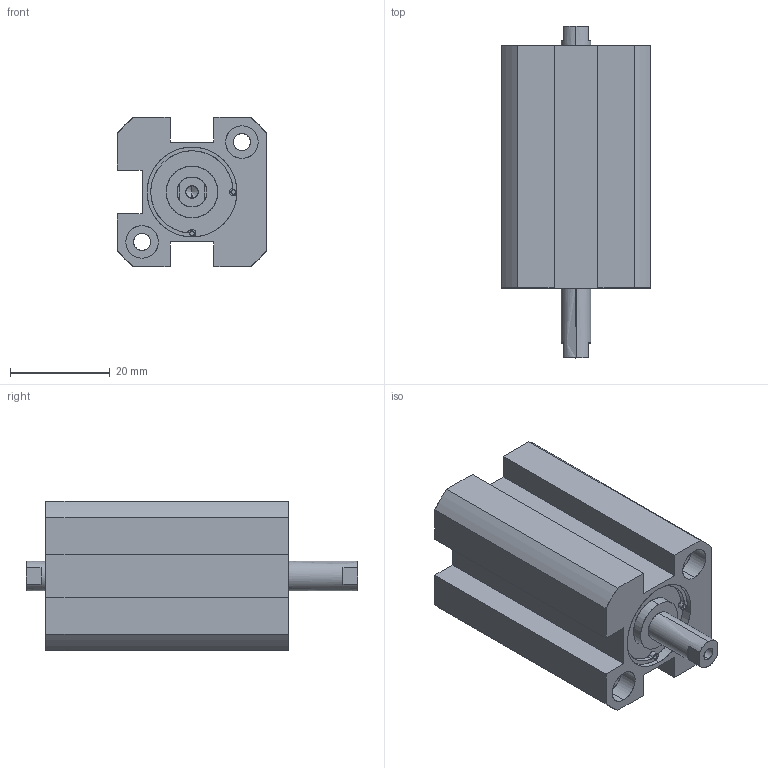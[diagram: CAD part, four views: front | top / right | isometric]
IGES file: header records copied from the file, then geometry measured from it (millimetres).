
Start section: SolidWorks IGES file using analytic representation for surfaces
Global section: file name: C:\Users\Toshiba\Desktop\XG#7-16D-10.IGS; native system: SolidWorks 2014; preprocessor: SolidWorks 2014; author: Toshiba; date: 160524.095645; units: millimetre
Bounding box: 30 x 66.5 x 30 mm (x, y, z)
Surface area: 10692.8 mm2 (no closed solid volume)
Topology: 0 solids, 0 shells, 108 faces, 1704 edges, 1696 vertices
Faces by surface type: revolution 66, bspline 42
